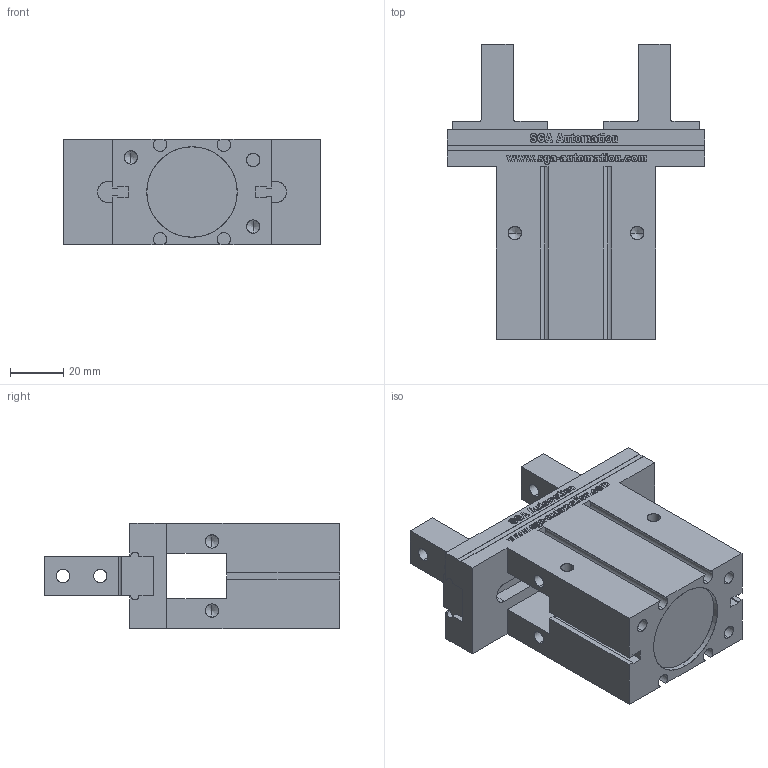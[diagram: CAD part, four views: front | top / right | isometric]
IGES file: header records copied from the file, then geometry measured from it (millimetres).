
Start section: SolidWorks IGES file using analytic representation for surfaces
Global section: file name: F:\GDZ32\GDZ 32 ouvert.IGS; native system: SolidWorks 2014; preprocessor: SolidWorks 2014; author: adminlocal; date: 150326.165649; units: millimetre
Bounding box: 97 x 111 x 39.6 mm (x, y, z)
Surface area: 45141.2 mm2 (no closed solid volume)
Topology: 0 solids, 0 shells, 1247 faces, 15155 edges, 15135 vertices
Faces by surface type: bspline 1164, revolution 83
